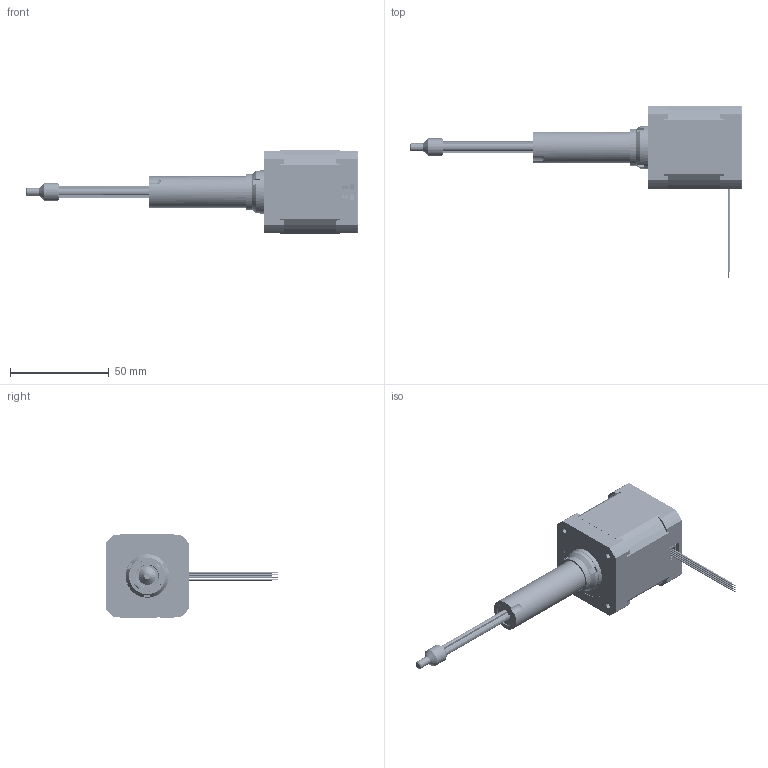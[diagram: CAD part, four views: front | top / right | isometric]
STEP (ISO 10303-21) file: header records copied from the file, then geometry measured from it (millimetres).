
FILE_DESCRIPTION((''),'2;1');
FILE_NAME('42CC4X-X-XXX-XXX_ASM','2023-03-24T',('guangyan.zhou'),(''),'CREO PARAMETRIC BY PTC INC, 2017300','CREO PARAMETRIC BY PTC INC, 2017300','');
FILE_SCHEMA(('CONFIG_CONTROL_DESIGN'));
Products named in the file (150): EB42-1003_AF0; ST42-1003_AF61; ST42-1003_AF62; ST42-1003_AF63; ST42-1003_AF64; ST42-1003_AF65; ST42-1003_AF66; ST42-1003_AF67; ST42-1003_AF68; ST42-1003_AF69; ST42-1003_AF70; ST42-1003_AF71; ST42-1003_AF72; ST42-1003_AF73; ST42-1003_AF74; ST42-1003_AF75; ST42-1003_AF76; ST42-1003_AF77; ST42-1003_AF78; ST42-1003_AF79; ST42-1003_AF80; ST42-1003_AF81; ST42-1003_AF82; ST42-1003_AF83; ST42-1003_AF84; ST42-1003_AF85; ST42-1003_AF86; ST42-1003_AF87; ST42-1003_AF88; ST42-1003_AF89; ST42-1003_AF90; ST42-1003_AF91; ST42-1003_AF92; ST42-1003_AF93; ST42-1003_AF94; ST42-1003_AF95; ST42-1003_AF96; ST42-1003_AF97; ST42-1003_AF98; ST42-1003_AF99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
Assembly tree (151 placements, depth 4):
  42CC4X-X-XXX-XXX_ASM
    EB42-1003_AF0
    ST42-1004_AF0_ASM
      ST42-1005_AF0_ASM
        ST42-1003_AF61
        ST42-1003_AF62
        ST42-1003_AF63
        ST42-1003_AF64
        ST42-1003_AF65
        ST42-1003_AF66
        ST42-1003_AF67
        ST42-1003_AF68
        ST42-1003_AF69
        ST42-1003_AF70
        ST42-1003_AF71
        ST42-1003_AF72
        ST42-1003_AF73
        ST42-1003_AF74
        ST42-1003_AF75
        ST42-1003_AF76
        ST42-1003_AF77
        ST42-1003_AF78
        ST42-1003_AF79
        ST42-1003_AF80
        ST42-1003_AF81
        ST42-1003_AF82
        ST42-1003_AF83
        ST42-1003_AF84
        ST42-1003_AF85
        ST42-1003_AF86
        ST42-1003_AF87
        ST42-1003_AF88
        ST42-1003_AF89
        ST42-1003_AF90
        ST42-1003_AF91
        ST42-1003_AF92
        ST42-1003_AF93
        ST42-1003_AF94
        ST42-1003_AF95
        ST42-1003_AF96
        ST42-1003_AF97
        ST42-1003_AF98
        ST42-1003_AF99
        ST42-1003_AF100
        ST42-1003_AF101
        ST42-1003_AF102
        ST42-1003_AF103
        ST42-1003_AF104
        ST42-1003_AF105
        ST42-1003_AF106
        ST42-1003_AF107
        ST42-1003_AF108
        ST42-1003_AF109
        ST42-1003_AF110
        ST42-1003_AF111
        ST42-1003_AF112
        ST42-1003_AF113
        ST42-1003_AF114
        ST42-1003_AF115
        ST42-1003_AF116
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Bounding box: 168.2 x 87.45 x 42.2 mm (x, y, z)
Volume: 35035.1 mm3; surface area: 87368.2 mm2
Topology: 117 solids, 133 shells, 6716 faces, 19139 edges, 12720 vertices
Faces by surface type: cylinder 3174, plane 2650, extrusion 727, bspline 91, cone 32, torus 32, sphere 10
Entity records: 264752 total; most frequent: CARTESIAN_POINT 80932, ORIENTED_EDGE 38208, DIRECTION 36750, EDGE_CURVE 19133, VERTEX_POINT 12720, AXIS2_PLACEMENT_3D 12614, VECTOR 11522, LINE 10795
